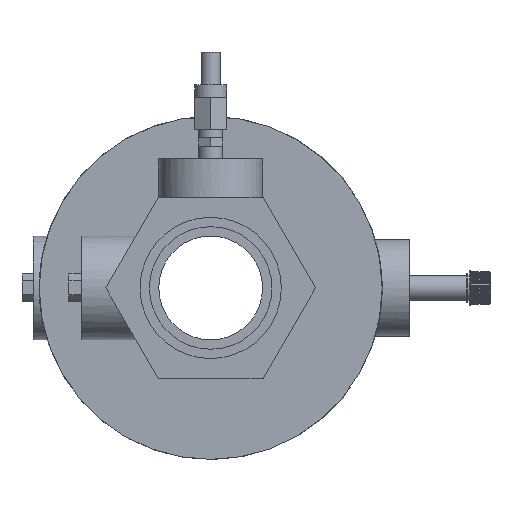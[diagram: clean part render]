
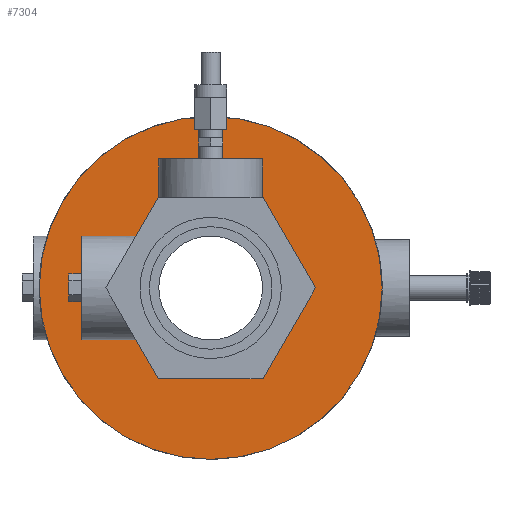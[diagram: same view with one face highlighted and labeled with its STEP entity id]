
A CAD part, left-side view. The second image highlights one B-rep face of the part: STEP entity #7304.
In plain terms, the highlighted planar face has unit normal (-1, 0, 0).
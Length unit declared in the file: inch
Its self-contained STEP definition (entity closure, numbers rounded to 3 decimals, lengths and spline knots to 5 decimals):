
#205=FACE_BOUND('',#1325,.T.);
#250=CIRCLE('',#7523,2.65812);
#251=CIRCLE('',#7524,2.65812);
#258=CIRCLE('',#7537,1.35729);
#260=CIRCLE('',#7539,1.35729);
#261=CIRCLE('',#7540,1.35729);
#941=FACE_OUTER_BOUND('',#1324,.T.);
#1324=EDGE_LOOP('',(#5881,#5882));
#1325=EDGE_LOOP('',(#5883,#5884,#5885,#5886,#5887,#5888,#5889,#5890,#5891));
#1568=LINE('',#10600,#2174);
#1574=LINE('',#10648,#2180);
#1575=LINE('',#10650,#2181);
#1581=LINE('',#10707,#2187);
#1584=LINE('',#10712,#2190);
#1585=LINE('',#10714,#2191);
#2174=VECTOR('',#8481,0.3937);
#2180=VECTOR('',#8493,0.3937);
#2181=VECTOR('',#8496,0.3937);
#2187=VECTOR('',#8518,0.3937);
#2190=VECTOR('',#8523,0.3937);
#2191=VECTOR('',#8526,0.3937);
#2746=VERTEX_POINT('',#10486);
#2754=VERTEX_POINT('',#10542);
#2761=VERTEX_POINT('',#10596);
#2763=VERTEX_POINT('',#10599);
#2767=VERTEX_POINT('',#10644);
#2768=VERTEX_POINT('',#10646);
#2769=VERTEX_POINT('',#10652);
#2771=VERTEX_POINT('',#10657);
#2774=VERTEX_POINT('',#10696);
#2777=VERTEX_POINT('',#10706);
#2778=VERTEX_POINT('',#10710);
#3503=EDGE_CURVE('',#2754,#2746,#250,.T.);
#3504=EDGE_CURVE('',#2746,#2754,#251,.T.);
#3514=EDGE_CURVE('',#2763,#2761,#1568,.T.);
#3522=EDGE_CURVE('',#2767,#2768,#1574,.T.);
#3523=EDGE_CURVE('',#2768,#2763,#1575,.T.);
#3524=EDGE_CURVE('',#2767,#2769,#258,.T.);
#3527=EDGE_CURVE('',#2769,#2771,#260,.T.);
#3531=EDGE_CURVE('',#2774,#2761,#261,.T.);
#3535=EDGE_CURVE('',#2777,#2771,#1581,.T.);
#3538=EDGE_CURVE('',#2774,#2778,#1584,.T.);
#3539=EDGE_CURVE('',#2778,#2777,#1585,.T.);
#5881=ORIENTED_EDGE('',*,*,#3503,.F.);
#5882=ORIENTED_EDGE('',*,*,#3504,.F.);
#5883=ORIENTED_EDGE('',*,*,#3523,.T.);
#5884=ORIENTED_EDGE('',*,*,#3514,.T.);
#5885=ORIENTED_EDGE('',*,*,#3531,.F.);
#5886=ORIENTED_EDGE('',*,*,#3538,.T.);
#5887=ORIENTED_EDGE('',*,*,#3539,.T.);
#5888=ORIENTED_EDGE('',*,*,#3535,.T.);
#5889=ORIENTED_EDGE('',*,*,#3527,.F.);
#5890=ORIENTED_EDGE('',*,*,#3524,.F.);
#5891=ORIENTED_EDGE('',*,*,#3522,.T.);
#6609=PLANE('',#7931);
#7304=ADVANCED_FACE('',(#941,#205),#6609,.T.);
#7523=AXIS2_PLACEMENT_3D('',#10561,#8460,#8461);
#7524=AXIS2_PLACEMENT_3D('',#10562,#8462,#8463);
#7537=AXIS2_PLACEMENT_3D('',#10653,#8499,#8500);
#7539=AXIS2_PLACEMENT_3D('',#10658,#8504,#8505);
#7540=AXIS2_PLACEMENT_3D('',#10698,#8508,#8509);
#7931=AXIS2_PLACEMENT_3D('',#12482,#9601,#9602);
#8460=DIRECTION('center_axis',(1.,0.,0.));
#8461=DIRECTION('ref_axis',(0.,0.,-1.));
#8462=DIRECTION('center_axis',(1.,0.,0.));
#8463=DIRECTION('ref_axis',(0.,0.,-1.));
#8481=DIRECTION('',(0.,-1.,0.));
#8493=DIRECTION('',(0.,1.,0.));
#8496=DIRECTION('',(0.,0.,1.));
#8499=DIRECTION('center_axis',(-1.,0.,0.));
#8500=DIRECTION('ref_axis',(0.,0.,1.));
#8504=DIRECTION('center_axis',(-1.,0.,0.));
#8505=DIRECTION('ref_axis',(0.,0.,1.));
#8508=DIRECTION('center_axis',(-1.,0.,0.));
#8509=DIRECTION('ref_axis',(0.,0.,1.));
#8518=DIRECTION('',(0.,0.,-1.));
#8523=DIRECTION('',(0.,0.,1.));
#8526=DIRECTION('',(0.,-1.,0.));
#9601=DIRECTION('center_axis',(-1.,0.,0.));
#9602=DIRECTION('ref_axis',(0.,0.,1.));
#10486=CARTESIAN_POINT('',(-1.635,2.65812,0.));
#10542=CARTESIAN_POINT('',(-1.635,-2.65812,0.));
#10561=CARTESIAN_POINT('Origin',(-1.635,0.,0.));
#10562=CARTESIAN_POINT('Origin',(-1.635,0.,0.));
#10596=CARTESIAN_POINT('',(-1.635,1.0928,0.805));
#10599=CARTESIAN_POINT('',(-1.635,2.,0.805));
#10600=CARTESIAN_POINT('',(-1.635,1.32906,0.805));
#10644=CARTESIAN_POINT('',(-1.635,1.0928,-0.805));
#10646=CARTESIAN_POINT('',(-1.635,2.,-0.805));
#10648=CARTESIAN_POINT('',(-1.635,1.32906,-0.805));
#10650=CARTESIAN_POINT('',(-1.635,2.,0.));
#10652=CARTESIAN_POINT('',(-1.635,0.,-1.35729));
#10653=CARTESIAN_POINT('Origin',(-1.635,0.,0.));
#10657=CARTESIAN_POINT('',(-1.635,-0.805,1.0928));
#10658=CARTESIAN_POINT('Origin',(-1.635,0.,0.));
#10696=CARTESIAN_POINT('',(-1.635,0.805,1.0928));
#10698=CARTESIAN_POINT('Origin',(-1.635,0.,0.));
#10706=CARTESIAN_POINT('',(-1.635,-0.805,2.));
#10707=CARTESIAN_POINT('',(-1.635,-0.805,0.));
#10710=CARTESIAN_POINT('',(-1.635,0.805,2.));
#10712=CARTESIAN_POINT('',(-1.635,0.805,0.));
#10714=CARTESIAN_POINT('',(-1.635,1.32906,2.));
#12482=CARTESIAN_POINT('Origin',(-1.635,2.65812,0.));
